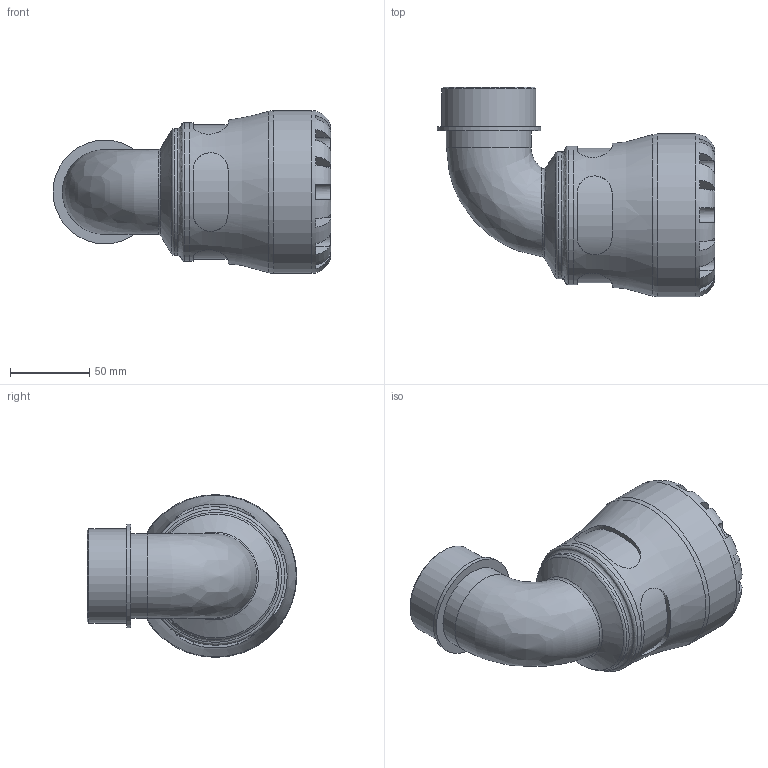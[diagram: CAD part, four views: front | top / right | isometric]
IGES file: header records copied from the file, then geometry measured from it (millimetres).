
Global section: file name: 108500063020_198500063020.ipt; native system: Autodesk Inventor 2015; preprocessor: unknown; author: KIM; date: 20190127.091531; units: millimetre
Bounding box: 175.79 x 132.5 x 103 mm (x, y, z)
Volume: 523680.7 mm3; surface area: 95905 mm2
Topology: 1 solids, 1 shells, 110 faces, 278 edges, 176 vertices
Faces by surface type: plane 61, revolution 26, cylinder 18, bspline 4, cone 1
Full cylindrical faces by diameter (mm): 53.653 x1, 59.614 x1, 65.575 x1, 80.34 x1, 87.55 x1, 103 x1
